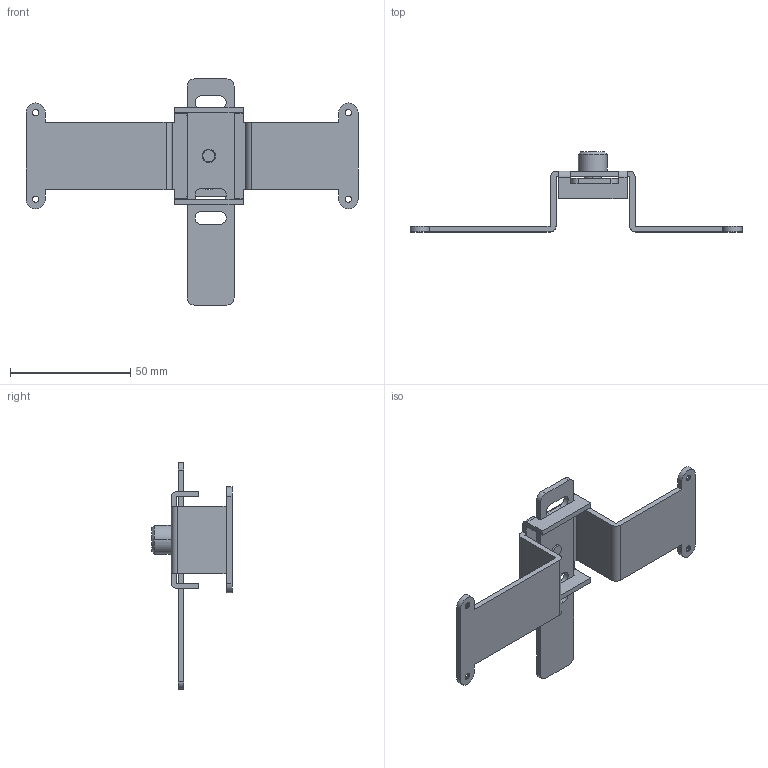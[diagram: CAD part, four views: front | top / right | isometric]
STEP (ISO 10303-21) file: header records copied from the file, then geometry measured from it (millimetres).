
FILE_DESCRIPTION(/* description */ (''),/* implementation_level */ '2;1');
FILE_NAME(/* name */ 'MIF12GM_2P_3D DATA.stp',/* time_stamp */ '2017-12-29T16:30:56+09:00',/* author */ (''),/* organization */ (''),/* preprocessor_version */ 'ST-DEVELOPER v15',/* originating_system */ 'SIEMENS PLM Software NX 9.0',/* authorisation */ '');
FILE_SCHEMA (('AP203_CONFIGURATION_CONTROLLED_3D_DESIGN_OF_MECHANICAL_PARTS_AND_ASSEMBLIES_MIM_LF { 1 0 10303 403 2 1 2}'));
Length unit declared in the file: millimetre
Products named in the file (6): GC2-PG-8008_R00; GC1-OT-8035_R00; 4ME-08569-1_R00; GC2-PG-8005_R00; GC2-AS-8023_R00
Assembly tree (5 placements, depth 3):
  GC2-AS-8023_R00
    GC2-AS-8023_R00
      GC2-PG-8005_R00
      4ME-08569-1_R00
      GC1-OT-8035_R00
      GC2-PG-8008_R00
Bounding box: 138 x 33.3 x 94 mm (x, y, z)
Volume: 17839.7 mm3; surface area: 18433.1 mm2
Topology: 4 solids, 4 shells, 128 faces, 846 edges, 1184 vertices
Faces by surface type: plane 62, cylinder 56, cone 10
Full cylindrical faces by diameter (mm): 5.5 x4
Entity records: 8833 total; most frequent: CARTESIAN_POINT 3302, DIRECTION 1076, ORIENTED_EDGE 696, LINE 538, VECTOR 538, EDGE_CURVE 348, TRIMMED_CURVE 324, AXIS2_PLACEMENT_3D 269
